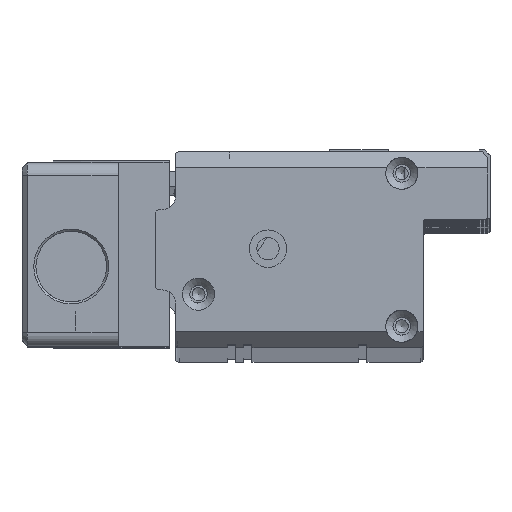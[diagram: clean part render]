
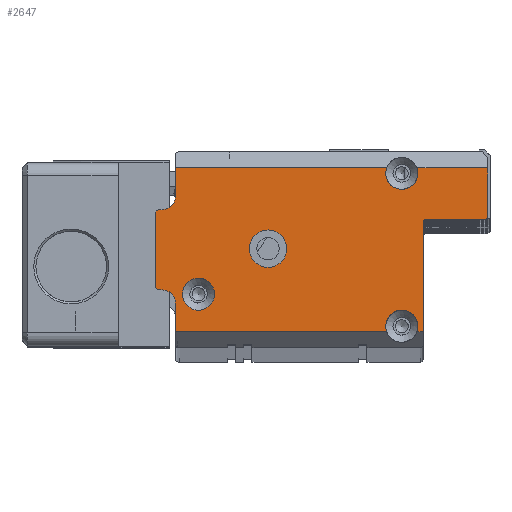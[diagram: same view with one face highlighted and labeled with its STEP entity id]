
A CAD part, top view. The second image highlights one B-rep face of the part: STEP entity #2647.
In plain terms, the highlighted planar face has unit normal (0, 0, 1).
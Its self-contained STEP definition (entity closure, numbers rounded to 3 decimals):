
#890=FACE_BOUND('',#5233,.T.);
#891=FACE_BOUND('',#5234,.T.);
#892=FACE_BOUND('',#5235,.T.);
#1597=CIRCLE('',#20804,3.);
#1598=CIRCLE('',#20805,3.);
#1599=CIRCLE('',#20806,0.5);
#1600=CIRCLE('',#20807,0.5);
#1601=CIRCLE('',#20808,3.);
#1602=CIRCLE('',#20809,2.5);
#1603=CIRCLE('',#20810,0.5);
#1604=CIRCLE('',#20811,0.5);
#1605=CIRCLE('',#20812,2.5);
#1606=CIRCLE('',#20813,3.5);
#2647=ADVANCED_FACE('',(#890,#891,#892),#3273,.T.);
#3273=PLANE('',#20814);
#5233=EDGE_LOOP('',(#14185));
#5234=EDGE_LOOP('',(#14186,#14187,#14188,#14189,#14190,#14191,#14192,#14193,
#14194,#14195,#14196,#14197,#14198,#14199,#14200,#14201,#14202,#14203,#14204,
#14205));
#5235=EDGE_LOOP('',(#14206));
#7019=LINE('',#32798,#8827);
#7020=LINE('',#32800,#8828);
#7021=LINE('',#32804,#8829);
#7022=LINE('',#32808,#8830);
#7023=LINE('',#32810,#8831);
#7024=LINE('',#32814,#8832);
#7025=LINE('',#32816,#8833);
#7026=LINE('',#32820,#8834);
#7027=LINE('',#32824,#8835);
#7028=LINE('',#32828,#8836);
#7029=LINE('',#32832,#8837);
#7030=LINE('',#32834,#8838);
#8827=VECTOR('',#26083,1.);
#8828=VECTOR('',#26084,1.);
#8829=VECTOR('',#26087,1.);
#8830=VECTOR('',#26090,1.);
#8831=VECTOR('',#26091,1.);
#8832=VECTOR('',#26094,1.);
#8833=VECTOR('',#26095,1.);
#8834=VECTOR('',#26098,1.);
#8835=VECTOR('',#26101,1.);
#8836=VECTOR('',#26104,1.);
#8837=VECTOR('',#26107,1.);
#8838=VECTOR('',#26108,1.);
#14185=ORIENTED_EDGE('',*,*,#18940,.T.);
#14186=ORIENTED_EDGE('',*,*,#18941,.T.);
#14187=ORIENTED_EDGE('',*,*,#18942,.T.);
#14188=ORIENTED_EDGE('',*,*,#18943,.T.);
#14189=ORIENTED_EDGE('',*,*,#18944,.T.);
#14190=ORIENTED_EDGE('',*,*,#18945,.T.);
#14191=ORIENTED_EDGE('',*,*,#18946,.T.);
#14192=ORIENTED_EDGE('',*,*,#18947,.T.);
#14193=ORIENTED_EDGE('',*,*,#18948,.T.);
#14194=ORIENTED_EDGE('',*,*,#18949,.T.);
#14195=ORIENTED_EDGE('',*,*,#18950,.T.);
#14196=ORIENTED_EDGE('',*,*,#18951,.T.);
#14197=ORIENTED_EDGE('',*,*,#18952,.T.);
#14198=ORIENTED_EDGE('',*,*,#18953,.T.);
#14199=ORIENTED_EDGE('',*,*,#18954,.T.);
#14200=ORIENTED_EDGE('',*,*,#18955,.T.);
#14201=ORIENTED_EDGE('',*,*,#18956,.T.);
#14202=ORIENTED_EDGE('',*,*,#18957,.T.);
#14203=ORIENTED_EDGE('',*,*,#18958,.T.);
#14204=ORIENTED_EDGE('',*,*,#18959,.T.);
#14205=ORIENTED_EDGE('',*,*,#18960,.T.);
#14206=ORIENTED_EDGE('',*,*,#18961,.T.);
#16218=VERTEX_POINT('',#32794);
#16219=VERTEX_POINT('',#32796);
#16220=VERTEX_POINT('',#32797);
#16221=VERTEX_POINT('',#32799);
#16222=VERTEX_POINT('',#32801);
#16223=VERTEX_POINT('',#32803);
#16224=VERTEX_POINT('',#32805);
#16225=VERTEX_POINT('',#32807);
#16226=VERTEX_POINT('',#32809);
#16227=VERTEX_POINT('',#32811);
#16228=VERTEX_POINT('',#32813);
#16229=VERTEX_POINT('',#32815);
#16230=VERTEX_POINT('',#32817);
#16231=VERTEX_POINT('',#32819);
#16232=VERTEX_POINT('',#32821);
#16233=VERTEX_POINT('',#32823);
#16234=VERTEX_POINT('',#32825);
#16235=VERTEX_POINT('',#32827);
#16236=VERTEX_POINT('',#32829);
#16237=VERTEX_POINT('',#32831);
#16238=VERTEX_POINT('',#32833);
#16239=VERTEX_POINT('',#32836);
#18940=EDGE_CURVE('',#16218,#16218,#1597,.T.);
#18941=EDGE_CURVE('',#16219,#16220,#1598,.T.);
#18942=EDGE_CURVE('',#16220,#16221,#7019,.T.);
#18943=EDGE_CURVE('',#16221,#16222,#7020,.T.);
#18944=EDGE_CURVE('',#16222,#16223,#1599,.T.);
#18945=EDGE_CURVE('',#16223,#16224,#7021,.T.);
#18946=EDGE_CURVE('',#16224,#16225,#1600,.T.);
#18947=EDGE_CURVE('',#16225,#16226,#7022,.T.);
#18948=EDGE_CURVE('',#16226,#16227,#7023,.T.);
#18949=EDGE_CURVE('',#16227,#16228,#1601,.T.);
#18950=EDGE_CURVE('',#16228,#16229,#7024,.T.);
#18951=EDGE_CURVE('',#16229,#16230,#7025,.T.);
#18952=EDGE_CURVE('',#16230,#16231,#1602,.T.);
#18953=EDGE_CURVE('',#16231,#16232,#7026,.T.);
#18954=EDGE_CURVE('',#16232,#16233,#1603,.T.);
#18955=EDGE_CURVE('',#16233,#16234,#7027,.T.);
#18956=EDGE_CURVE('',#16234,#16235,#1604,.T.);
#18957=EDGE_CURVE('',#16235,#16236,#7028,.T.);
#18958=EDGE_CURVE('',#16236,#16237,#1605,.T.);
#18959=EDGE_CURVE('',#16237,#16238,#7029,.T.);
#18960=EDGE_CURVE('',#16238,#16219,#7030,.T.);
#18961=EDGE_CURVE('',#16239,#16239,#1606,.T.);
#20804=AXIS2_PLACEMENT_3D('',#32793,#26079,#26080);
#20805=AXIS2_PLACEMENT_3D('',#32795,#26081,#26082);
#20806=AXIS2_PLACEMENT_3D('',#32802,#26085,#26086);
#20807=AXIS2_PLACEMENT_3D('',#32806,#26088,#26089);
#20808=AXIS2_PLACEMENT_3D('',#32812,#26092,#26093);
#20809=AXIS2_PLACEMENT_3D('',#32818,#26096,#26097);
#20810=AXIS2_PLACEMENT_3D('',#32822,#26099,#26100);
#20811=AXIS2_PLACEMENT_3D('',#32826,#26102,#26103);
#20812=AXIS2_PLACEMENT_3D('',#32830,#26105,#26106);
#20813=AXIS2_PLACEMENT_3D('',#32835,#26109,#26110);
#20814=AXIS2_PLACEMENT_3D('',#32837,#26111,#26112);
#26079=DIRECTION('',(0.,0.,-1.));
#26080=DIRECTION('',(-1.,0.,0.));
#26081=DIRECTION('',(0.,0.,-1.));
#26082=DIRECTION('',(-1.,0.,0.));
#26083=DIRECTION('',(1.,0.,0.));
#26084=DIRECTION('',(0.,1.,0.));
#26085=DIRECTION('',(0.,0.,-1.));
#26086=DIRECTION('',(1.,0.,0.));
#26087=DIRECTION('',(1.,0.,0.));
#26088=DIRECTION('',(0.,0.,1.));
#26089=DIRECTION('',(1.,0.,0.));
#26090=DIRECTION('',(0.,1.,0.));
#26091=DIRECTION('',(-1.,0.,0.));
#26092=DIRECTION('',(0.,0.,-1.));
#26093=DIRECTION('',(-1.,0.,0.));
#26094=DIRECTION('',(-1.,0.,0.));
#26095=DIRECTION('',(0.,-1.,0.));
#26096=DIRECTION('',(0.,0.,-1.));
#26097=DIRECTION('',(1.,0.,0.));
#26098=DIRECTION('',(-1.,0.,0.));
#26099=DIRECTION('',(0.,0.,1.));
#26100=DIRECTION('',(1.,0.,0.));
#26101=DIRECTION('',(0.,-1.,0.));
#26102=DIRECTION('',(0.,0.,1.));
#26103=DIRECTION('',(1.,0.,0.));
#26104=DIRECTION('',(1.,0.,0.));
#26105=DIRECTION('',(0.,0.,-1.));
#26106=DIRECTION('',(1.,0.,0.));
#26107=DIRECTION('',(0.,-1.,0.));
#26108=DIRECTION('',(1.,0.,0.));
#26109=DIRECTION('',(0.,0.,-1.));
#26110=DIRECTION('',(-1.,0.,0.));
#26111=DIRECTION('',(0.,0.,1.));
#26112=DIRECTION('',(-1.,0.,0.));
#32793=CARTESIAN_POINT('',(8.,-26.6,8.));
#32794=CARTESIAN_POINT('',(5.,-26.6,8.));
#32795=CARTESIAN_POINT('',(46.,-32.6,8.));
#32796=CARTESIAN_POINT('',(43.172,-33.6,8.));
#32797=CARTESIAN_POINT('',(48.828,-33.6,8.));
#32798=CARTESIAN_POINT('',(50.,-33.6,8.));
#32799=CARTESIAN_POINT('',(50.,-33.6,8.));
#32800=CARTESIAN_POINT('',(50.,-36.6,8.));
#32801=CARTESIAN_POINT('',(50.,-13.1,8.));
#32802=CARTESIAN_POINT('',(50.5,-13.1,8.));
#32803=CARTESIAN_POINT('',(50.5,-12.6,8.));
#32804=CARTESIAN_POINT('',(50.,-12.6,8.));
#32805=CARTESIAN_POINT('',(61.6,-12.6,8.));
#32806=CARTESIAN_POINT('',(61.6,-12.1,8.));
#32807=CARTESIAN_POINT('',(62.1,-12.1,8.));
#32808=CARTESIAN_POINT('',(62.1,-12.6,8.));
#32809=CARTESIAN_POINT('',(62.1,-3.,8.));
#32810=CARTESIAN_POINT('',(3.7,-3.,8.));
#32811=CARTESIAN_POINT('',(48.828,-3.,8.));
#32812=CARTESIAN_POINT('',(46.,-4.,8.));
#32813=CARTESIAN_POINT('',(43.172,-3.,8.));
#32814=CARTESIAN_POINT('',(3.7,-3.,8.));
#32815=CARTESIAN_POINT('',(3.7,-3.,8.));
#32816=CARTESIAN_POINT('',(3.7,0.,8.));
#32817=CARTESIAN_POINT('',(3.7,-8.3,8.));
#32818=CARTESIAN_POINT('',(1.2,-8.3,8.));
#32819=CARTESIAN_POINT('',(1.2,-10.8,8.));
#32820=CARTESIAN_POINT('',(3.7,-10.8,8.));
#32821=CARTESIAN_POINT('',(0.5,-10.8,8.));
#32822=CARTESIAN_POINT('',(0.5,-11.3,8.));
#32823=CARTESIAN_POINT('',(0.,-11.3,8.));
#32824=CARTESIAN_POINT('',(0.,-10.8,8.));
#32825=CARTESIAN_POINT('',(0.,-25.3,8.));
#32826=CARTESIAN_POINT('',(0.5,-25.3,8.));
#32827=CARTESIAN_POINT('',(0.5,-25.8,8.));
#32828=CARTESIAN_POINT('',(0.,-25.8,8.));
#32829=CARTESIAN_POINT('',(1.2,-25.8,8.));
#32830=CARTESIAN_POINT('',(1.2,-28.3,8.));
#32831=CARTESIAN_POINT('',(3.7,-28.3,8.));
#32832=CARTESIAN_POINT('',(3.7,-25.8,8.));
#32833=CARTESIAN_POINT('',(3.7,-33.6,8.));
#32834=CARTESIAN_POINT('',(50.,-33.6,8.));
#32835=CARTESIAN_POINT('',(21.,-18.1,8.));
#32836=CARTESIAN_POINT('',(17.5,-18.1,8.));
#32837=CARTESIAN_POINT('',(0.,0.,8.));
